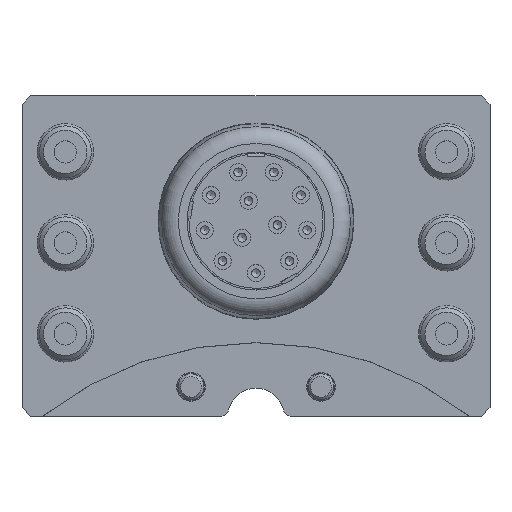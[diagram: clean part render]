
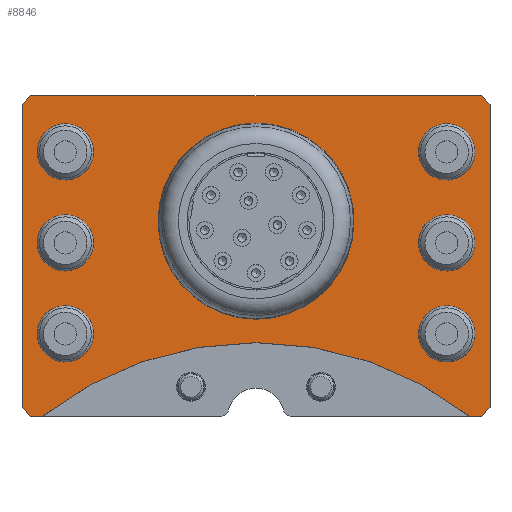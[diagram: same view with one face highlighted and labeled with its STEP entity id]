
A CAD part, top view. The second image highlights one B-rep face of the part: STEP entity #8846.
In plain terms, the highlighted planar face has unit normal (0, 0, 1).
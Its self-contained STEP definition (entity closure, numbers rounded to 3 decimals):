
#244=FACE_BOUND('',#1380,.T.);
#245=FACE_BOUND('',#1381,.T.);
#246=FACE_BOUND('',#1382,.T.);
#247=FACE_BOUND('',#1383,.T.);
#248=FACE_BOUND('',#1384,.T.);
#249=FACE_BOUND('',#1385,.T.);
#250=FACE_BOUND('',#1386,.T.);
#430=PLANE('',#9842);
#837=FACE_OUTER_BOUND('',#1379,.T.);
#1379=EDGE_LOOP('',(#7472,#7473,#7474,#7475,#7476,#7477,#7478,#7479,#7480,
#7481));
#1380=EDGE_LOOP('',(#7482,#7483));
#1381=EDGE_LOOP('',(#7484,#7485));
#1382=EDGE_LOOP('',(#7486,#7487));
#1383=EDGE_LOOP('',(#7488,#7489));
#1384=EDGE_LOOP('',(#7490,#7491));
#1385=EDGE_LOOP('',(#7492,#7493));
#1386=EDGE_LOOP('',(#7494,#7495));
#1883=CIRCLE('',#9667,3.);
#1884=CIRCLE('',#9668,3.);
#1894=CIRCLE('',#9684,3.);
#1895=CIRCLE('',#9685,3.);
#1905=CIRCLE('',#9701,3.);
#1906=CIRCLE('',#9702,3.);
#1914=CIRCLE('',#9716,3.);
#1915=CIRCLE('',#9717,3.);
#1925=CIRCLE('',#9733,3.);
#1926=CIRCLE('',#9734,3.);
#1936=CIRCLE('',#9750,3.);
#1937=CIRCLE('',#9751,3.);
#1951=CIRCLE('',#9776,11.3);
#1952=CIRCLE('',#9777,11.3);
#1992=CIRCLE('',#9843,40.1);
#2626=LINE('',#16222,#3153);
#2645=LINE('',#16387,#3172);
#2647=LINE('',#16391,#3174);
#2649=LINE('',#16407,#3176);
#2650=LINE('',#16409,#3177);
#2651=LINE('',#16411,#3178);
#2652=LINE('',#16412,#3179);
#2653=LINE('',#16416,#3180);
#2654=LINE('',#16417,#3181);
#3153=VECTOR('',#12091,10.);
#3172=VECTOR('',#12236,10.);
#3174=VECTOR('',#12240,10.);
#3176=VECTOR('',#12256,10.);
#3177=VECTOR('',#12257,10.);
#3178=VECTOR('',#12258,10.);
#3179=VECTOR('',#12259,10.);
#3180=VECTOR('',#12262,10.);
#3181=VECTOR('',#12263,10.);
#3863=VERTEX_POINT('',#16016);
#3864=VERTEX_POINT('',#16018);
#3874=VERTEX_POINT('',#16048);
#3875=VERTEX_POINT('',#16050);
#3885=VERTEX_POINT('',#16080);
#3886=VERTEX_POINT('',#16082);
#3894=VERTEX_POINT('',#16108);
#3895=VERTEX_POINT('',#16110);
#3905=VERTEX_POINT('',#16140);
#3906=VERTEX_POINT('',#16142);
#3916=VERTEX_POINT('',#16172);
#3917=VERTEX_POINT('',#16174);
#3932=VERTEX_POINT('',#16219);
#3933=VERTEX_POINT('',#16221);
#3939=VERTEX_POINT('',#16278);
#3940=VERTEX_POINT('',#16280);
#3971=VERTEX_POINT('',#16384);
#3972=VERTEX_POINT('',#16386);
#3973=VERTEX_POINT('',#16390);
#3980=VERTEX_POINT('',#16406);
#3981=VERTEX_POINT('',#16408);
#3982=VERTEX_POINT('',#16410);
#3983=VERTEX_POINT('',#16413);
#3984=VERTEX_POINT('',#16415);
#5017=EDGE_CURVE('',#3864,#3863,#1883,.T.);
#5018=EDGE_CURVE('',#3863,#3864,#1884,.T.);
#5032=EDGE_CURVE('',#3875,#3874,#1894,.T.);
#5033=EDGE_CURVE('',#3874,#3875,#1895,.T.);
#5047=EDGE_CURVE('',#3886,#3885,#1905,.T.);
#5048=EDGE_CURVE('',#3885,#3886,#1906,.T.);
#5060=EDGE_CURVE('',#3895,#3894,#1914,.T.);
#5061=EDGE_CURVE('',#3894,#3895,#1915,.T.);
#5075=EDGE_CURVE('',#3906,#3905,#1925,.T.);
#5076=EDGE_CURVE('',#3905,#3906,#1926,.T.);
#5090=EDGE_CURVE('',#3917,#3916,#1936,.T.);
#5091=EDGE_CURVE('',#3916,#3917,#1937,.T.);
#5113=EDGE_CURVE('',#3932,#3933,#2626,.T.);
#5122=EDGE_CURVE('',#3940,#3939,#1951,.T.);
#5123=EDGE_CURVE('',#3939,#3940,#1952,.T.);
#5172=EDGE_CURVE('',#3971,#3972,#2645,.T.);
#5174=EDGE_CURVE('',#3972,#3973,#2647,.T.);
#5182=EDGE_CURVE('',#3980,#3971,#2649,.T.);
#5183=EDGE_CURVE('',#3981,#3980,#2650,.T.);
#5184=EDGE_CURVE('',#3982,#3981,#2651,.T.);
#5185=EDGE_CURVE('',#3933,#3982,#2652,.T.);
#5186=EDGE_CURVE('',#3932,#3983,#1992,.T.);
#5187=EDGE_CURVE('',#3984,#3983,#2653,.T.);
#5188=EDGE_CURVE('',#3973,#3984,#2654,.T.);
#7472=ORIENTED_EDGE('',*,*,#5172,.F.);
#7473=ORIENTED_EDGE('',*,*,#5182,.F.);
#7474=ORIENTED_EDGE('',*,*,#5183,.F.);
#7475=ORIENTED_EDGE('',*,*,#5184,.F.);
#7476=ORIENTED_EDGE('',*,*,#5185,.F.);
#7477=ORIENTED_EDGE('',*,*,#5113,.F.);
#7478=ORIENTED_EDGE('',*,*,#5186,.T.);
#7479=ORIENTED_EDGE('',*,*,#5187,.F.);
#7480=ORIENTED_EDGE('',*,*,#5188,.F.);
#7481=ORIENTED_EDGE('',*,*,#5174,.F.);
#7482=ORIENTED_EDGE('',*,*,#5122,.T.);
#7483=ORIENTED_EDGE('',*,*,#5123,.T.);
#7484=ORIENTED_EDGE('',*,*,#5060,.T.);
#7485=ORIENTED_EDGE('',*,*,#5061,.T.);
#7486=ORIENTED_EDGE('',*,*,#5075,.T.);
#7487=ORIENTED_EDGE('',*,*,#5076,.T.);
#7488=ORIENTED_EDGE('',*,*,#5090,.T.);
#7489=ORIENTED_EDGE('',*,*,#5091,.T.);
#7490=ORIENTED_EDGE('',*,*,#5047,.T.);
#7491=ORIENTED_EDGE('',*,*,#5048,.T.);
#7492=ORIENTED_EDGE('',*,*,#5032,.T.);
#7493=ORIENTED_EDGE('',*,*,#5033,.T.);
#7494=ORIENTED_EDGE('',*,*,#5017,.T.);
#7495=ORIENTED_EDGE('',*,*,#5018,.T.);
#8846=ADVANCED_FACE('',(#837,#244,#245,#246,#247,#248,#249,#250),#430,.T.);
#9667=AXIS2_PLACEMENT_3D('',#16019,#11852,#11853);
#9668=AXIS2_PLACEMENT_3D('',#16020,#11854,#11855);
#9684=AXIS2_PLACEMENT_3D('',#16051,#11890,#11891);
#9685=AXIS2_PLACEMENT_3D('',#16052,#11892,#11893);
#9701=AXIS2_PLACEMENT_3D('',#16083,#11928,#11929);
#9702=AXIS2_PLACEMENT_3D('',#16084,#11930,#11931);
#9716=AXIS2_PLACEMENT_3D('',#16111,#11962,#11963);
#9717=AXIS2_PLACEMENT_3D('',#16112,#11964,#11965);
#9733=AXIS2_PLACEMENT_3D('',#16143,#12000,#12001);
#9734=AXIS2_PLACEMENT_3D('',#16144,#12002,#12003);
#9750=AXIS2_PLACEMENT_3D('',#16175,#12038,#12039);
#9751=AXIS2_PLACEMENT_3D('',#16176,#12040,#12041);
#9776=AXIS2_PLACEMENT_3D('',#16281,#12103,#12104);
#9777=AXIS2_PLACEMENT_3D('',#16282,#12105,#12106);
#9842=AXIS2_PLACEMENT_3D('',#16405,#12254,#12255);
#9843=AXIS2_PLACEMENT_3D('',#16414,#12260,#12261);
#11852=DIRECTION('center_axis',(0.,0.,-1.));
#11853=DIRECTION('ref_axis',(1.,0.,0.));
#11854=DIRECTION('center_axis',(0.,0.,-1.));
#11855=DIRECTION('ref_axis',(1.,0.,0.));
#11890=DIRECTION('center_axis',(0.,0.,-1.));
#11891=DIRECTION('ref_axis',(1.,0.,0.));
#11892=DIRECTION('center_axis',(0.,0.,-1.));
#11893=DIRECTION('ref_axis',(1.,0.,0.));
#11928=DIRECTION('center_axis',(0.,0.,-1.));
#11929=DIRECTION('ref_axis',(1.,0.,0.));
#11930=DIRECTION('center_axis',(0.,0.,-1.));
#11931=DIRECTION('ref_axis',(1.,0.,0.));
#11962=DIRECTION('center_axis',(0.,0.,-1.));
#11963=DIRECTION('ref_axis',(-1.,0.,0.));
#11964=DIRECTION('center_axis',(0.,0.,-1.));
#11965=DIRECTION('ref_axis',(-1.,0.,0.));
#12000=DIRECTION('center_axis',(0.,0.,-1.));
#12001=DIRECTION('ref_axis',(-1.,0.,0.));
#12002=DIRECTION('center_axis',(0.,0.,-1.));
#12003=DIRECTION('ref_axis',(-1.,0.,0.));
#12038=DIRECTION('center_axis',(0.,0.,-1.));
#12039=DIRECTION('ref_axis',(-1.,0.,0.));
#12040=DIRECTION('center_axis',(0.,0.,-1.));
#12041=DIRECTION('ref_axis',(-1.,0.,0.));
#12091=DIRECTION('',(-1.,0.,0.));
#12103=DIRECTION('center_axis',(0.,0.,-1.));
#12104=DIRECTION('ref_axis',(0.,-1.,0.));
#12105=DIRECTION('center_axis',(0.,0.,-1.));
#12106=DIRECTION('ref_axis',(0.,-1.,0.));
#12236=DIRECTION('',(0.707,-0.707,0.));
#12240=DIRECTION('',(0.,-1.,0.));
#12254=DIRECTION('center_axis',(0.,0.,1.));
#12255=DIRECTION('ref_axis',(1.,0.,0.));
#12256=DIRECTION('',(1.,0.,0.));
#12257=DIRECTION('',(0.707,0.707,0.));
#12258=DIRECTION('',(0.,1.,0.));
#12259=DIRECTION('',(-0.707,0.707,0.));
#12260=DIRECTION('center_axis',(0.,0.,-1.));
#12261=DIRECTION('ref_axis',(-1.,0.,0.));
#12262=DIRECTION('',(-1.,0.,0.));
#12263=DIRECTION('',(-0.707,-0.707,0.));
#16016=CARTESIAN_POINT('',(19.,9.5,0.));
#16018=CARTESIAN_POINT('',(25.,9.5,0.));
#16019=CARTESIAN_POINT('Origin',(22.,9.5,0.));
#16020=CARTESIAN_POINT('Origin',(22.,9.5,0.));
#16048=CARTESIAN_POINT('',(19.,20.,0.));
#16050=CARTESIAN_POINT('',(25.,20.,0.));
#16051=CARTESIAN_POINT('Origin',(22.,20.,0.));
#16052=CARTESIAN_POINT('Origin',(22.,20.,0.));
#16080=CARTESIAN_POINT('',(19.,30.5,0.));
#16082=CARTESIAN_POINT('',(25.,30.5,0.));
#16083=CARTESIAN_POINT('Origin',(22.,30.5,0.));
#16084=CARTESIAN_POINT('Origin',(22.,30.5,0.));
#16108=CARTESIAN_POINT('',(-19.,30.5,0.));
#16110=CARTESIAN_POINT('',(-25.,30.5,0.));
#16111=CARTESIAN_POINT('Origin',(-22.,30.5,0.));
#16112=CARTESIAN_POINT('Origin',(-22.,30.5,0.));
#16140=CARTESIAN_POINT('',(-19.,20.,0.));
#16142=CARTESIAN_POINT('',(-25.,20.,0.));
#16143=CARTESIAN_POINT('Origin',(-22.,20.,0.));
#16144=CARTESIAN_POINT('Origin',(-22.,20.,0.));
#16172=CARTESIAN_POINT('',(-19.,9.5,0.));
#16174=CARTESIAN_POINT('',(-25.,9.5,0.));
#16175=CARTESIAN_POINT('Origin',(-22.,9.5,0.));
#16176=CARTESIAN_POINT('Origin',(-22.,9.5,0.));
#16219=CARTESIAN_POINT('',(-24.687,0.,0.));
#16221=CARTESIAN_POINT('',(-26.,0.,0.));
#16222=CARTESIAN_POINT('',(27.,0.,0.));
#16278=CARTESIAN_POINT('',(0.,33.8,0.));
#16280=CARTESIAN_POINT('',(0.,11.2,0.));
#16281=CARTESIAN_POINT('Origin',(0.,22.5,0.));
#16282=CARTESIAN_POINT('Origin',(0.,22.5,0.));
#16384=CARTESIAN_POINT('',(26.,37.,0.));
#16386=CARTESIAN_POINT('',(27.,36.,0.));
#16387=CARTESIAN_POINT('',(24.375,38.625,0.));
#16390=CARTESIAN_POINT('',(27.,1.,0.));
#16391=CARTESIAN_POINT('',(27.,37.,0.));
#16405=CARTESIAN_POINT('Origin',(0.,18.5,0.));
#16406=CARTESIAN_POINT('',(-26.,37.,0.));
#16407=CARTESIAN_POINT('',(-27.,37.,0.));
#16408=CARTESIAN_POINT('',(-27.,36.,0.));
#16409=CARTESIAN_POINT('',(-24.375,38.625,0.));
#16410=CARTESIAN_POINT('',(-27.,1.,0.));
#16411=CARTESIAN_POINT('',(-27.,0.,0.));
#16412=CARTESIAN_POINT('',(-24.375,-1.625,0.));
#16413=CARTESIAN_POINT('',(24.687,0.,0.));
#16414=CARTESIAN_POINT('Origin',(0.,-31.6,0.));
#16415=CARTESIAN_POINT('',(26.,0.,0.));
#16416=CARTESIAN_POINT('',(27.,0.,0.));
#16417=CARTESIAN_POINT('',(24.375,-1.625,0.));
